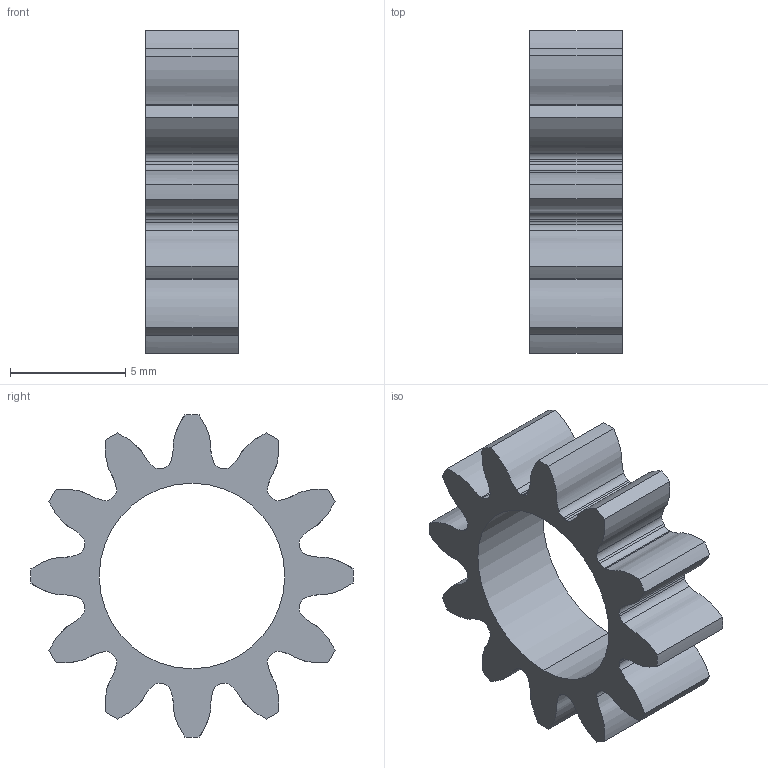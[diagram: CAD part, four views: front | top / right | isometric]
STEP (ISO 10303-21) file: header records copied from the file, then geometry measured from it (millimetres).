
FILE_DESCRIPTION (( 'STEP AP214' ), '1' );
FILE_NAME ('PLANETS_12T.STEP', '2020-08-29T12:52:52', ( '' ), ( '' ), 'SwSTEP 2.0', 'SolidWorks 2020', '' );
FILE_SCHEMA (( 'AUTOMOTIVE_DESIGN' ));
Length unit declared in the file: millimetre
Products named in the file (1): PLANETS_12T
Bounding box: 4 x 14 x 14 mm (x, y, z)
Volume: 245.5 mm3; surface area: 503.8 mm2
Topology: 1 solids, 1 shells, 81 faces, 237 edges, 158 vertices
Faces by surface type: cylinder 55, bspline 24, plane 2
Entity records: 4171 total; most frequent: CARTESIAN_POINT 2037, ORIENTED_EDGE 474, DIRECTION 415, EDGE_CURVE 237, AXIS2_PLACEMENT_3D 168, VERTEX_POINT 158, CIRCLE 110, EDGE_LOOP 83
